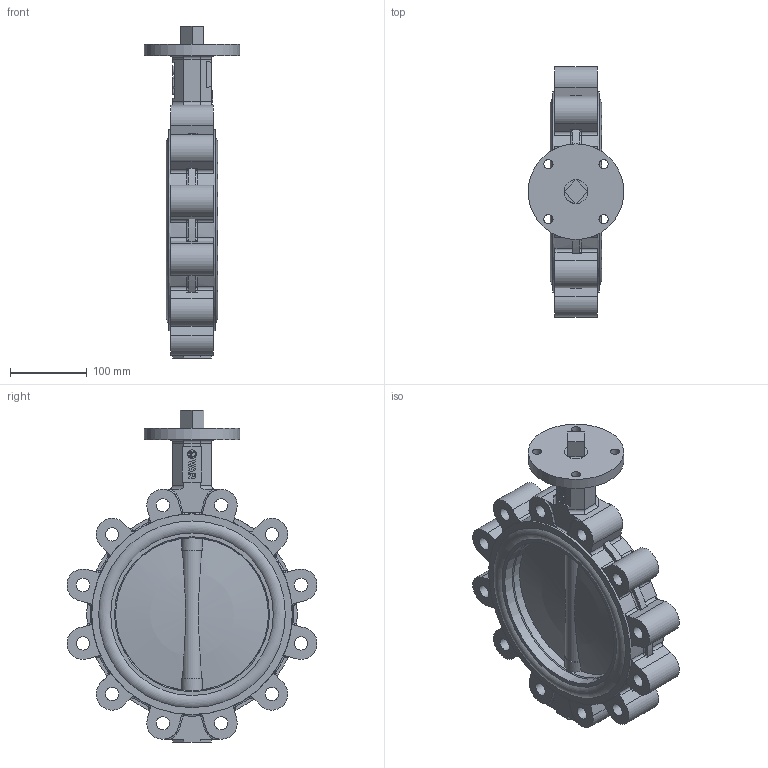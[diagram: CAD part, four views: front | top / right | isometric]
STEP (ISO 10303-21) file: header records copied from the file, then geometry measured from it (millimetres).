
FILE_DESCRIPTION(('STEP AP242'), '1');
FILE_NAME('Ïîâîðîòíûé çàòâîð ïîä ýëåêòðîïðèâîä', '', ('UNSPECIFIED'), ('UNSPECIFIED'), 'C3D Converter', 'C3D Toolkit', '');
FILE_SCHEMA(('AP242_MANAGED_MODEL_BASED_3D_ENGINEERING_MIM_LF { 1 0 10303 442 1 1 4 }'));
Length unit declared in the file: millimetre
Products named in the file (6): П
Assembly tree (6 placements, depth 2):
  (unnamed)
    (unnamed)
    П  x2
    (unnamed)
    (unnamed)
    (unnamed)
Bounding box: 125 x 326.79 x 434 mm (x, y, z)
Volume: 3160727.7 mm3; surface area: 564089.2 mm2
Topology: 6 solids, 6 shells, 669 faces, 1747 edges, 1122 vertices
Faces by surface type: plane 249, cylinder 182, extrusion 151, torus 79, cone 4, sphere 4
Full cylindrical faces by diameter (mm): 11.421 x1, 12 x4, 17.294 x12, 22 x5, 24.2 x1, 28.975 x4, 31.113 x5, 125 x1, 200 x1, 202.5 x2, 212.5 x2, 228.25 x4, 244 x4, 262.333 x2
Entity records: 26246 total; most frequent: CARTESIAN_POINT 8064, ORIENTED_EDGE 3370, DIRECTION 2968, EDGE_CURVE 1685, VERTEX_POINT 1117, AXIS2_PLACEMENT_3D 1006, VECTOR 956, LINE 805
